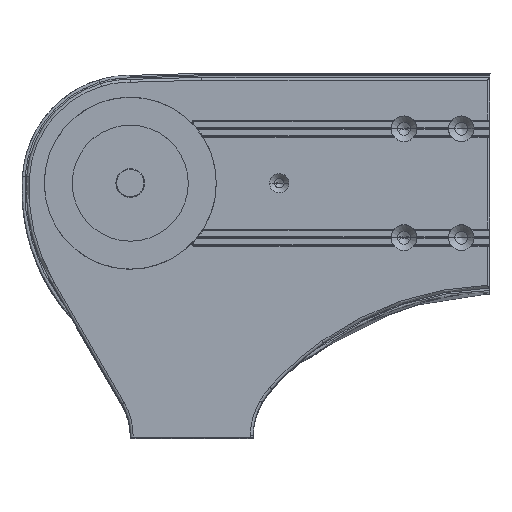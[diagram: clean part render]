
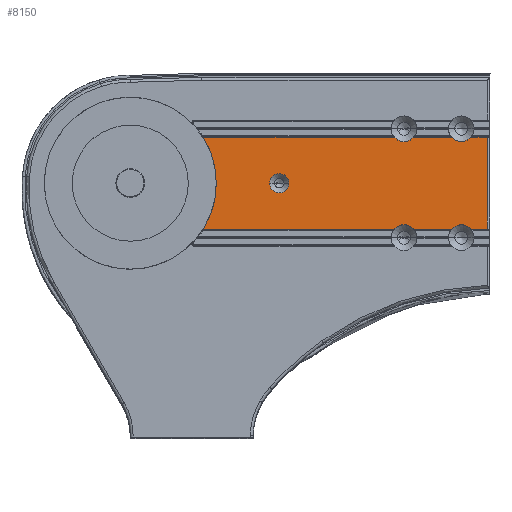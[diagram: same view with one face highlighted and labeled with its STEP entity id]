
A CAD part, top view. The second image highlights one B-rep face of the part: STEP entity #8150.
In plain terms, the highlighted planar face has unit normal (0, 0, 1).
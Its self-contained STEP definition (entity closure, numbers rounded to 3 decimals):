
#73 = DIRECTION ( 'NONE',  ( 1., 0., 0. ) ) ;
#186 = CIRCLE ( 'NONE', #14388, 8.96 ) ;
#351 = CARTESIAN_POINT ( 'NONE',  ( 50.707, -32.074, 212. ) ) ;
#627 = VECTOR ( 'NONE', #14670, 1000. ) ;
#850 = CARTESIAN_POINT ( 'NONE',  ( 51.247, -34., 212. ) ) ;
#1042 = CIRCLE ( 'NONE', #13528, 60. ) ;
#1239 = ORIENTED_EDGE ( 'NONE', *, *, #6038, .F. ) ;
#1264 = CARTESIAN_POINT ( 'NONE',  ( 191.04, 38., 212. ) ) ;
#1309 = EDGE_CURVE ( 'NONE', #18557, #6342, #5401, .T. ) ;
#1314 = DIRECTION ( 'NONE',  ( -1., 0., 0. ) ) ;
#1369 = DIRECTION ( 'NONE',  ( 0., 0., 1. ) ) ;
#1559 = CARTESIAN_POINT ( 'NONE',  ( 104., 0., 212. ) ) ;
#1599 = DIRECTION ( 'NONE',  ( 1., 0., 0. ) ) ;
#1781 = CARTESIAN_POINT ( 'NONE',  ( 0., 0., 212. ) ) ;
#1859 = ORIENTED_EDGE ( 'NONE', *, *, #16382, .T. ) ;
#1970 = AXIS2_PLACEMENT_3D ( 'NONE', #850, #5316, #11770 ) ;
#2080 = CARTESIAN_POINT ( 'NONE',  ( 249.04, -32., 212. ) ) ;
#2410 = EDGE_CURVE ( 'NONE', #8900, #18592, #16372, .T. ) ;
#2643 = VERTEX_POINT ( 'NONE', #5502 ) ;
#2806 = AXIS2_PLACEMENT_3D ( 'NONE', #14261, #6460, #12913 ) ;
#2862 = CARTESIAN_POINT ( 'NONE',  ( 60., 0., 212. ) ) ;
#2873 = AXIS2_PLACEMENT_3D ( 'NONE', #16012, #12811, #3519 ) ;
#2945 = ORIENTED_EDGE ( 'NONE', *, *, #17809, .F. ) ;
#2996 = DIRECTION ( 'NONE',  ( 1., 0., 0. ) ) ;
#3011 = DIRECTION ( 'NONE',  ( 1., 0., 0. ) ) ;
#3166 = CARTESIAN_POINT ( 'NONE',  ( 223.967, -32., 212. ) ) ;
#3209 = CIRCLE ( 'NONE', #2806, 8.96 ) ;
#3519 = DIRECTION ( 'NONE',  ( 1., 0., 0. ) ) ;
#3603 = CIRCLE ( 'NONE', #5236, 8.96 ) ;
#3996 = ORIENTED_EDGE ( 'NONE', *, *, #16070, .F. ) ;
#4017 = CARTESIAN_POINT ( 'NONE',  ( 249.04, 32.5, 212. ) ) ;
#4116 = EDGE_CURVE ( 'NONE', #7088, #7829, #19284, .T. ) ;
#4477 = VERTEX_POINT ( 'NONE', #11521 ) ;
#4524 = ORIENTED_EDGE ( 'NONE', *, *, #10992, .T. ) ;
#4823 = LINE ( 'NONE', #4017, #627 ) ;
#4887 = DIRECTION ( 'NONE',  ( 1., 0., 0. ) ) ;
#5227 = ORIENTED_EDGE ( 'NONE', *, *, #19065, .T. ) ;
#5236 = AXIS2_PLACEMENT_3D ( 'NONE', #7560, #15243, #3011 ) ;
#5316 = DIRECTION ( 'NONE',  ( 0., 0., -1. ) ) ;
#5401 = LINE ( 'NONE', #10247, #9048 ) ;
#5502 = CARTESIAN_POINT ( 'NONE',  ( 50.707, 32.074, 212. ) ) ;
#5722 = CARTESIAN_POINT ( 'NONE',  ( 97.28, 0., 212. ) ) ;
#5767 = EDGE_CURVE ( 'NONE', #8134, #17841, #6920, .T. ) ;
#6038 = EDGE_CURVE ( 'NONE', #10829, #14449, #11070, .T. ) ;
#6299 = ORIENTED_EDGE ( 'NONE', *, *, #13295, .F. ) ;
#6342 = VERTEX_POINT ( 'NONE', #16408 ) ;
#6460 = DIRECTION ( 'NONE',  ( 0., 0., 1. ) ) ;
#6578 = DIRECTION ( 'NONE',  ( 1., 0., 0. ) ) ;
#6587 = CARTESIAN_POINT ( 'NONE',  ( 249.04, 32., 212. ) ) ;
#6751 = ORIENTED_EDGE ( 'NONE', *, *, #4116, .T. ) ;
#6920 = CIRCLE ( 'NONE', #1970, 2. ) ;
#7088 = VERTEX_POINT ( 'NONE', #6587 ) ;
#7295 = CARTESIAN_POINT ( 'NONE',  ( 249.04, -32., 212. ) ) ;
#7560 = CARTESIAN_POINT ( 'NONE',  ( 231.04, -38., 212. ) ) ;
#7639 = CARTESIAN_POINT ( 'NONE',  ( 238.113, 32., 212. ) ) ;
#7808 = AXIS2_PLACEMENT_3D ( 'NONE', #12491, #17194, #2996 ) ;
#7829 = VERTEX_POINT ( 'NONE', #19756 ) ;
#7875 = CIRCLE ( 'NONE', #8759, 6.72 ) ;
#7949 = EDGE_CURVE ( 'NONE', #16759, #6342, #186, .T. ) ;
#7992 = DIRECTION ( 'NONE',  ( 1., 0., 0. ) ) ;
#8063 = EDGE_CURVE ( 'NONE', #4477, #2643, #8973, .T. ) ;
#8134 = VERTEX_POINT ( 'NONE', #351 ) ;
#8150 = ADVANCED_FACE ( 'NONE', ( #8458, #11182 ), #19531, .T. ) ;
#8458 = FACE_BOUND ( 'NONE', #9377, .T. ) ;
#8472 = AXIS2_PLACEMENT_3D ( 'NONE', #9250, #18793, #1599 ) ;
#8759 = AXIS2_PLACEMENT_3D ( 'NONE', #1559, #1369, #13869 ) ;
#8900 = VERTEX_POINT ( 'NONE', #13729 ) ;
#8973 = CIRCLE ( 'NONE', #2873, 2. ) ;
#9048 = VECTOR ( 'NONE', #13433, 1000. ) ;
#9250 = CARTESIAN_POINT ( 'NONE',  ( 191.04, -38., 212. ) ) ;
#9349 = VECTOR ( 'NONE', #15324, 1000. ) ;
#9377 = EDGE_LOOP ( 'NONE', ( #11643, #2945 ) ) ;
#9603 = AXIS2_PLACEMENT_3D ( 'NONE', #15959, #12756, #6578 ) ;
#10015 = CARTESIAN_POINT ( 'NONE',  ( 237.694, -32., 212. ) ) ;
#10100 = LINE ( 'NONE', #14225, #16468 ) ;
#10247 = CARTESIAN_POINT ( 'NONE',  ( 198.113, 32., 212. ) ) ;
#10342 = ORIENTED_EDGE ( 'NONE', *, *, #7949, .F. ) ;
#10829 = VERTEX_POINT ( 'NONE', #18118 ) ;
#10948 = ORIENTED_EDGE ( 'NONE', *, *, #17357, .T. ) ;
#10962 = EDGE_LOOP ( 'NONE', ( #13557, #13949, #6299, #14616, #19645, #1239, #10948, #3996, #4524, #1859, #6751, #13409, #18453, #10342, #5227 ) ) ;
#10992 = EDGE_CURVE ( 'NONE', #15953, #14205, #17181, .T. ) ;
#11070 = CIRCLE ( 'NONE', #8472, 8.96 ) ;
#11111 = EDGE_CURVE ( 'NONE', #20279, #2643, #1042, .T. ) ;
#11182 = FACE_OUTER_BOUND ( 'NONE', #10962, .T. ) ;
#11204 = CARTESIAN_POINT ( 'NONE',  ( 224.385, -32., 212. ) ) ;
#11521 = CARTESIAN_POINT ( 'NONE',  ( 51.247, 32., 212. ) ) ;
#11598 = CARTESIAN_POINT ( 'NONE',  ( 224.385, 32., 212. ) ) ;
#11643 = ORIENTED_EDGE ( 'NONE', *, *, #2410, .F. ) ;
#11688 = CARTESIAN_POINT ( 'NONE',  ( -44.001, -176.306, 212. ) ) ;
#11770 = DIRECTION ( 'NONE',  ( 1., 0., 0. ) ) ;
#12201 = DIRECTION ( 'NONE',  ( 0., 0., 1. ) ) ;
#12298 = CARTESIAN_POINT ( 'NONE',  ( 51.247, -32., 212. ) ) ;
#12491 = CARTESIAN_POINT ( 'NONE',  ( 104., 0., 212. ) ) ;
#12569 = EDGE_CURVE ( 'NONE', #18557, #7829, #3209, .T. ) ;
#12756 = DIRECTION ( 'NONE',  ( 0., 0., 1. ) ) ;
#12811 = DIRECTION ( 'NONE',  ( 0., 0., -1. ) ) ;
#12913 = DIRECTION ( 'NONE',  ( 1., 0., 0. ) ) ;
#13295 = EDGE_CURVE ( 'NONE', #8134, #20279, #13491, .T. ) ;
#13409 = ORIENTED_EDGE ( 'NONE', *, *, #12569, .F. ) ;
#13433 = DIRECTION ( 'NONE',  ( -1., 0., 0. ) ) ;
#13491 = CIRCLE ( 'NONE', #9603, 60. ) ;
#13528 = AXIS2_PLACEMENT_3D ( 'NONE', #1781, #14213, #17420 ) ;
#13557 = ORIENTED_EDGE ( 'NONE', *, *, #8063, .T. ) ;
#13729 = CARTESIAN_POINT ( 'NONE',  ( 110.72, 0., 212. ) ) ;
#13869 = DIRECTION ( 'NONE',  ( 1., 0., 0. ) ) ;
#13949 = ORIENTED_EDGE ( 'NONE', *, *, #11111, .F. ) ;
#14205 = VERTEX_POINT ( 'NONE', #2080 ) ;
#14213 = DIRECTION ( 'NONE',  ( 0., 0., 1. ) ) ;
#14225 = CARTESIAN_POINT ( 'NONE',  ( 183.967, -32., 212. ) ) ;
#14261 = CARTESIAN_POINT ( 'NONE',  ( 231.04, 38., 212. ) ) ;
#14388 = AXIS2_PLACEMENT_3D ( 'NONE', #1264, #12201, #7992 ) ;
#14449 = VERTEX_POINT ( 'NONE', #19320 ) ;
#14616 = ORIENTED_EDGE ( 'NONE', *, *, #5767, .T. ) ;
#14670 = DIRECTION ( 'NONE',  ( 0., 1., 0. ) ) ;
#14760 = VERTEX_POINT ( 'NONE', #11204 ) ;
#14914 = DIRECTION ( 'NONE',  ( 1., 0., 0. ) ) ;
#15243 = DIRECTION ( 'NONE',  ( 0., 0., 1. ) ) ;
#15324 = DIRECTION ( 'NONE',  ( 1., 0., 0. ) ) ;
#15453 = AXIS2_PLACEMENT_3D ( 'NONE', #11688, #17518, #14914 ) ;
#15951 = LINE ( 'NONE', #16978, #16180 ) ;
#15953 = VERTEX_POINT ( 'NONE', #10015 ) ;
#15959 = CARTESIAN_POINT ( 'NONE',  ( 0., 0., 212. ) ) ;
#16012 = CARTESIAN_POINT ( 'NONE',  ( 51.247, 34., 212. ) ) ;
#16070 = EDGE_CURVE ( 'NONE', #15953, #14760, #3603, .T. ) ;
#16180 = VECTOR ( 'NONE', #20178, 1000. ) ;
#16372 = CIRCLE ( 'NONE', #7808, 6.72 ) ;
#16382 = EDGE_CURVE ( 'NONE', #14205, #7088, #4823, .T. ) ;
#16408 = CARTESIAN_POINT ( 'NONE',  ( 197.694, 32., 212. ) ) ;
#16468 = VECTOR ( 'NONE', #73, 1000. ) ;
#16759 = VERTEX_POINT ( 'NONE', #17179 ) ;
#16790 = VECTOR ( 'NONE', #1314, 1000. ) ;
#16978 = CARTESIAN_POINT ( 'NONE',  ( 51.247, 32., 212. ) ) ;
#17179 = CARTESIAN_POINT ( 'NONE',  ( 184.385, 32., 212. ) ) ;
#17181 = LINE ( 'NONE', #7295, #9349 ) ;
#17194 = DIRECTION ( 'NONE',  ( 0., 0., 1. ) ) ;
#17200 = LINE ( 'NONE', #3166, #18961 ) ;
#17357 = EDGE_CURVE ( 'NONE', #10829, #14760, #17200, .T. ) ;
#17420 = DIRECTION ( 'NONE',  ( 1., 0., 0. ) ) ;
#17442 = EDGE_CURVE ( 'NONE', #17841, #14449, #10100, .T. ) ;
#17518 = DIRECTION ( 'NONE',  ( 0., 0., 1. ) ) ;
#17809 = EDGE_CURVE ( 'NONE', #18592, #8900, #7875, .T. ) ;
#17841 = VERTEX_POINT ( 'NONE', #12298 ) ;
#18118 = CARTESIAN_POINT ( 'NONE',  ( 197.694, -32., 212. ) ) ;
#18453 = ORIENTED_EDGE ( 'NONE', *, *, #1309, .T. ) ;
#18557 = VERTEX_POINT ( 'NONE', #11598 ) ;
#18592 = VERTEX_POINT ( 'NONE', #5722 ) ;
#18793 = DIRECTION ( 'NONE',  ( 0., 0., 1. ) ) ;
#18961 = VECTOR ( 'NONE', #4887, 1000. ) ;
#19065 = EDGE_CURVE ( 'NONE', #16759, #4477, #15951, .T. ) ;
#19284 = LINE ( 'NONE', #7639, #16790 ) ;
#19320 = CARTESIAN_POINT ( 'NONE',  ( 184.385, -32., 212. ) ) ;
#19531 = PLANE ( 'NONE',  #15453 ) ;
#19645 = ORIENTED_EDGE ( 'NONE', *, *, #17442, .T. ) ;
#19756 = CARTESIAN_POINT ( 'NONE',  ( 237.694, 32., 212. ) ) ;
#20178 = DIRECTION ( 'NONE',  ( -1., 0., 0. ) ) ;
#20279 = VERTEX_POINT ( 'NONE', #2862 ) ;
